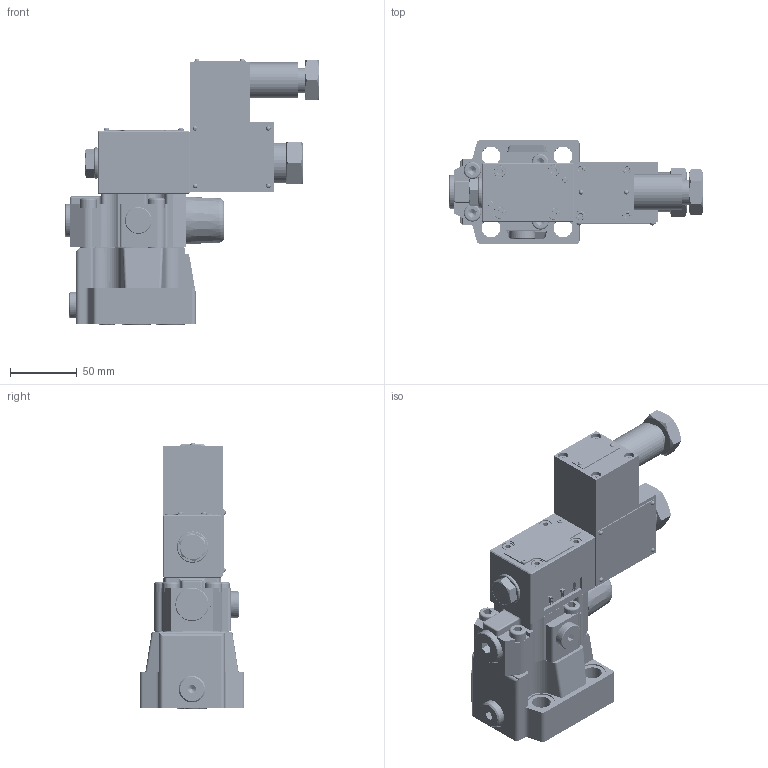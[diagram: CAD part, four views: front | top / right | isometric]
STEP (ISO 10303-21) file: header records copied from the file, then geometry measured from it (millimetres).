
FILE_DESCRIPTION(/* description */ (''),/* implementation_level */ '2;1');
FILE_NAME(/* name */ 'gd-dbw10b.stp',/* time_stamp */ '2024-08-21T11:36:44+08:00',/* author */ (''),/* organization */ (''),/* preprocessor_version */ 'ST-DEVELOPER v16.7',/* originating_system */ 'SIEMENS PLM Software NX 12.0',/* authorisation */ '');
FILE_SCHEMA (('AUTOMOTIVE_DESIGN { 1 0 10303 214 3 1 1 1 }'));
Products named in the file (1): gd-dbw10b
Bounding box: 190.5 x 78 x 199.92 mm (x, y, z)
Volume: 559818.1 mm3; surface area: 191135 mm2
Topology: 40 solids, 42 shells, 1538 faces, 3900 edges, 2502 vertices
Faces by surface type: plane 646, cylinder 614, bspline 103, cone 91, torus 70, sphere 14
Full cylindrical faces by diameter (mm): 1 x1, 1.2 x1, 1.5 x2, 1.8 x4, 2 x5, 3 x6, 3.3 x1, 3.4 x7, 4 x2, 4.2 x1, 4.3 x48, 5 x122, 5.3 x4, 5.5 x2, 6 x6, 6.78 x4, 7 x13, 7.5 x4, 8 x6, 8.4 x4, 8.5 x4, 8.7 x1, 9 x1, 9.4 x4, 11 x2, 11.5 x7, 11.7 x6, 12 x2, 12.2 x13, 12.73 x4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
Entity records: 169095 total; most frequent: CARTESIAN_POINT 139655, ORIENTED_EDGE 5558, DIRECTION 5503, EDGE_CURVE 2779, AXIS2_PLACEMENT_3D 2064, VERTEX_POINT 1915, EDGE_LOOP 1721, LINE 1375
